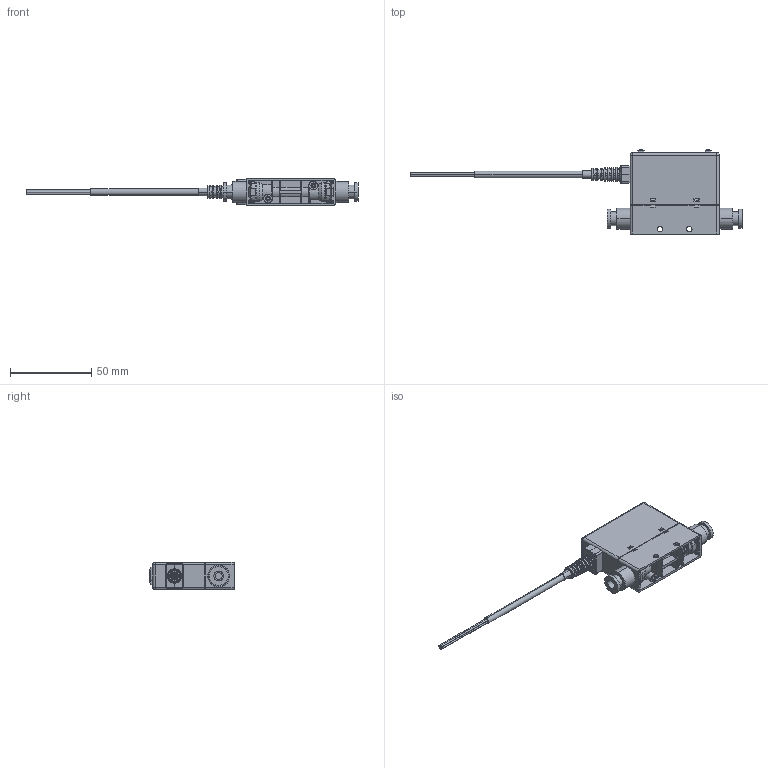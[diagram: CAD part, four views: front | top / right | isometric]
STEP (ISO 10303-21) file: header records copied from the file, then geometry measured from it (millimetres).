
FILE_DESCRIPTION(('STEP AP214'),'1');
FILE_NAME('.stp','2026-02-04T03:07:00',(' '),(' '),'Spatial InterOp 3D',' ',' ');
FILE_SCHEMA(('AUTOMOTIVE_DESIGN { 1 0 10303 214 1 1 1 1 }'));
Length unit declared in the file: millimetre
Products named in the file (4): MFS01-※※※-※※6※; 1; 2; 3
Assembly tree (3 placements, depth 2):
  MFS01-※※※-※※6※
    1
    2
    3
Bounding box: 204.6 x 51.85 x 17 mm (x, y, z)
Volume: 46907.6 mm3; surface area: 18110.8 mm2
Topology: 2 solids, 214 shells, 1002 faces, 3417 edges, 2658 vertices
Faces by surface type: plane 582, cylinder 276, cone 56, torus 48, bspline 32, sphere 8
Entity records: 48378 total; most frequent: CARTESIAN_POINT 10775, DIRECTION 6149, ORIENTED_EDGE 5554, EDGE_CURVE 3417, VERTEX_POINT 2658, LINE 2237, VECTOR 2237, AXIS2_PLACEMENT_3D 1956
